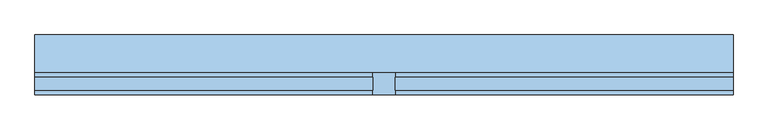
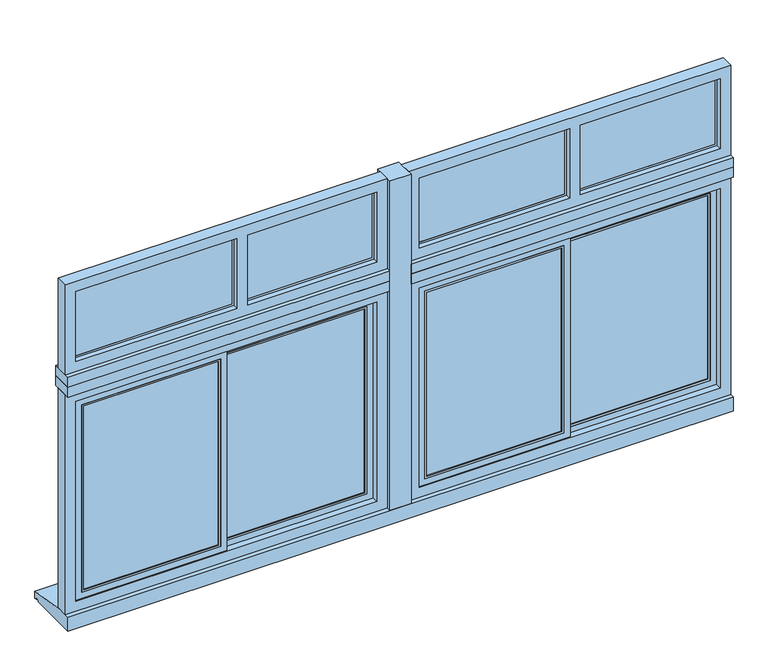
"""IFC4 building model written with IfcOpenShell, lengths in millimetres: window geometry, ARQ-VE-EX-315x155-Al-A1 : ARQ-VE-EX-315x165-Al-A1."""

from ifc_helpers import new_model, si_unit, point, frame, frame_2d, origin, place, context, project, spatial, polyline, circle_curve, trimmed, segment, composite_curve, outline, extrude, source, transform, mapped, element, save


def window_5a991f98(model_context):
    return source(origin(), model_context, "Body", "SweptSolid", [
        extrude(outline(polyline([(-110.0, -5.0), (-702.5, -5.0), (-702.5, 5.0), (-110.0, 5.0), (-110.0, -5.0)])), frame((0.0, 0.0, 2210.0), z_axis=(0.0, 0.0, 1.0), x_axis=(1.0, 0.0, 0.0)), (0.0, 0.0, 1.0), 330.0),
        extrude(outline(polyline([(1515.0, -5.0), (872.5, -5.0), (872.5, 5.0), (1515.0, 5.0), (1515.0, -5.0)])), frame((0.0, 0.0, 2210.0), z_axis=(0.0, 0.0, 1.0), x_axis=(1.0, 0.0, 0.0)), (0.0, 0.0, 1.0), 330.0),
        extrude(outline(polyline([(802.5, -5.0), (110.0, -5.0), (110.0, 5.0), (802.5, 5.0), (802.5, -5.0)])), frame((0.0, 0.0, 2210.0), z_axis=(0.0, 0.0, 1.0), x_axis=(1.0, 0.0, 0.0)), (0.0, 0.0, 1.0), 330.0),
        extrude(outline(polyline([(-772.5, -5.0), (-1515.0, -5.0), (-1515.0, 5.0), (-772.5, 5.0), (-772.5, -5.0)])), frame((0.0, 0.0, 2210.0), z_axis=(0.0, 0.0, 1.0), x_axis=(1.0, 0.0, 0.0)), (0.0, 0.0, 1.0), 330.0),
        extrude(outline(polyline([(2550.0, -762.5), (2550.0, -1525.0), (2200.0, -1525.0), (2200.0, -762.5), (2550.0, -762.5)]), holes=[polyline([(2540.0, -772.5), (2210.0, -772.5), (2210.0, -1515.0), (2540.0, -1515.0), (2540.0, -772.5)])]), frame((0.0, -5.0, 0.0), z_axis=(0.0, 1.0, 0.0), x_axis=(0.0, 0.0, 1.0)), (0.0, 0.0, 1.0), 10.0),
        extrude(outline(polyline([(2200.0, -100.0), (2550.0, -100.0), (2550.0, -712.5), (2200.0, -712.5), (2200.0, -100.0)]), holes=[polyline([(2540.0, -110.0), (2210.0, -110.0), (2210.0, -702.5), (2540.0, -702.5), (2540.0, -110.0)])]), frame((0.0, -5.0, 0.0), z_axis=(0.0, 1.0, 0.0), x_axis=(0.0, 0.0, 1.0)), (0.0, 0.0, 1.0), 10.0),
        extrude(outline(polyline([(2200.0, 812.5), (2550.0, 812.5), (2550.0, 100.0), (2200.0, 100.0), (2200.0, 812.5)]), holes=[polyline([(2540.0, 802.5), (2210.0, 802.5), (2210.0, 110.0), (2540.0, 110.0), (2540.0, 802.5)])]), frame((0.0, -5.0, 0.0), z_axis=(0.0, 1.0, 0.0), x_axis=(0.0, 0.0, 1.0)), (0.0, 0.0, 1.0), 10.0),
        extrude(outline(polyline([(2550.0, 1525.0), (2550.0, 862.5), (2200.0, 862.5), (2200.0, 1525.0), (2550.0, 1525.0)]), holes=[polyline([(2540.0, 1515.0), (2210.0, 1515.0), (2210.0, 872.5), (2540.0, 872.5), (2540.0, 1515.0)])]), frame((0.0, -5.0, 0.0), z_axis=(0.0, 1.0, 0.0), x_axis=(0.0, 0.0, 1.0)), (0.0, 0.0, 1.0), 10.0),
        extrude(outline(polyline([(2050.0, 1575.0), (2050.0, 50.0), (950.0, 50.0), (950.0, 1575.0), (2050.0, 1575.0)]), holes=[polyline([(1000.0, 1525.0), (1000.0, 100.0), (2000.0, 100.0), (2000.0, 1525.0), (1000.0, 1525.0)])]), frame((0.0, -30.0, 0.0), z_axis=(0.0, 1.0, 0.0), x_axis=(0.0, 0.0, 1.0)), (0.0, 0.0, 1.0), 60.0),
        extrude(outline(polyline([(2050.0, -50.0), (2050.0, -1575.0), (950.0, -1575.0), (950.0, -50.0), (2050.0, -50.0)]), holes=[polyline([(1000.0, -1525.0), (2000.0, -1525.0), (2000.0, -100.0), (1000.0, -100.0), (1000.0, -1525.0)])]), frame((0.0, -30.0, 0.0), z_axis=(0.0, 1.0, 0.0), x_axis=(0.0, 0.0, 1.0)), (0.0, 0.0, 1.0), 60.0),
        extrude(outline(polyline([(2150.0, 1575.0), (2600.0, 1575.0), (2600.0, 50.0), (2150.0, 50.0), (2150.0, 1575.0)]), holes=[polyline([(2200.0, 862.5), (2550.0, 862.5), (2550.0, 1525.0), (2200.0, 1525.0), (2200.0, 862.5)]), polyline([(2550.0, 812.5), (2200.0, 812.5), (2200.0, 100.0), (2550.0, 100.0), (2550.0, 812.5)])]), frame((0.0, -30.0, 0.0), z_axis=(0.0, 1.0, 0.0), x_axis=(0.0, 0.0, 1.0)), (0.0, 0.0, 1.0), 60.0),
        extrude(outline(polyline([(2600.0, -50.0), (2600.0, -1575.0), (2150.0, -1575.0), (2150.0, -50.0), (2600.0, -50.0)]), holes=[polyline([(2200.0, -712.5), (2550.0, -712.5), (2550.0, -100.0), (2200.0, -100.0), (2200.0, -712.5)]), polyline([(2550.0, -762.5), (2200.0, -762.5), (2200.0, -1525.0), (2550.0, -1525.0), (2550.0, -762.5)])]), frame((0.0, -30.0, 0.0), z_axis=(0.0, 1.0, 0.0), x_axis=(0.0, 0.0, 1.0)), (0.0, 0.0, 1.0), 60.0),
        extrude(outline(polyline([(50.0, -50.0), (-50.0, -50.0), (-50.0, 50.0), (50.0, 50.0), (50.0, -50.0)])), frame((0.0, 0.0, 950.0), z_axis=(0.0, 0.0, 1.0), x_axis=(1.0, 0.0, 0.0)), (0.0, 0.0, 1.0), 1650.0),
        extrude(outline(composite_curve([segment(polyline([(0.0, 950.0), (220.0, 916.0), (220.0, 880.0), (210.8067601, 880.0)]), True, "CONTINUOUS"), segment(trimmed(circle_curve(frame_2d((200.8067601, 880.0)), 10.0), [point((210.8067601, 880.0))], [point((190.8067601, 880.0))], True, "CARTESIAN"), True, "CONTINUOUS"), segment(polyline([(190.8067601, 880.0), (-50.0, 880.0), (-50.0, 950.0), (0.0, 950.0)]), True, "CONTINUOUS")], self_intersect=False)), frame((-1575.0, 0.0, 0.0), z_axis=(1.0, 0.0, 0.0), x_axis=(0.0, 1.0, 0.0)), (0.0, 0.0, 1.0), 3150.0),
        extrude(outline(polyline([(-140.0, 5.0), (-797.5, 5.0), (-797.5, 15.0), (-140.0, 15.0), (-140.0, 5.0)])), frame((0.0, 0.0, 1040.0), z_axis=(0.0, 0.0, 1.0), x_axis=(1.0, 0.0, 0.0)), (0.0, 0.0, 1.0), 920.0),
        extrude(outline(polyline([(1485.0, 5.0), (827.5, 5.0), (827.5, 15.0), (1485.0, 15.0), (1485.0, 5.0)])), frame((0.0, 0.0, 1040.0), z_axis=(0.0, 0.0, 1.0), x_axis=(1.0, 0.0, 0.0)), (0.0, 0.0, 1.0), 920.0),
        extrude(outline(polyline([(-847.5, -20.0), (-1485.0, -20.0), (-1485.0, -10.0), (-847.5, -10.0), (-847.5, -20.0)])), frame((0.0, 0.0, 1040.0), z_axis=(0.0, 0.0, 1.0), x_axis=(1.0, 0.0, 0.0)), (0.0, 0.0, 1.0), 920.0),
        extrude(outline(polyline([(777.5, -20.0), (140.0, -20.0), (140.0, -10.0), (777.5, -10.0), (777.5, -20.0)])), frame((0.0, 0.0, 1040.0), z_axis=(0.0, 0.0, 1.0), x_axis=(1.0, 0.0, 0.0)), (0.0, 0.0, 1.0), 920.0),
        extrude(outline(polyline([(1970.0, -130.0), (1970.0, -807.5), (1030.0, -807.5), (1030.0, -130.0), (1970.0, -130.0)]), holes=[polyline([(1960.0, -140.0), (1040.0, -140.0), (1040.0, -797.5), (1960.0, -797.5), (1960.0, -140.0)])]), frame((0.0, 0.0, 0.0), z_axis=(0.0, 1.0, 0.0), x_axis=(0.0, 0.0, 1.0)), (0.0, 0.0, 1.0), 20.0),
        extrude(outline(polyline([(1970.0, 1495.0), (1970.0, 817.5), (1030.0, 817.5), (1030.0, 1495.0), (1970.0, 1495.0)]), holes=[polyline([(1040.0, 1485.0), (1040.0, 827.5), (1960.0, 827.5), (1960.0, 1485.0), (1040.0, 1485.0)])]), frame((0.0, 0.0, 0.0), z_axis=(0.0, 1.0, 0.0), x_axis=(0.0, 0.0, 1.0)), (0.0, 0.0, 1.0), 20.0),
        extrude(outline(polyline([(1970.0, -837.5), (1970.0, -1495.0), (1030.0, -1495.0), (1030.0, -837.5), (1970.0, -837.5)]), holes=[polyline([(1960.0, -847.5), (1040.0, -847.5), (1040.0, -1485.0), (1960.0, -1485.0), (1960.0, -847.5)])]), frame((0.0, -25.0, 0.0), z_axis=(0.0, 1.0, 0.0), x_axis=(0.0, 0.0, 1.0)), (0.0, 0.0, 1.0), 20.0),
        extrude(outline(polyline([(1970.0, 130.0), (1030.0, 130.0), (1030.0, 787.5), (1970.0, 787.5), (1970.0, 130.0)]), holes=[polyline([(1040.0, 777.5), (1040.0, 140.0), (1960.0, 140.0), (1960.0, 777.5), (1040.0, 777.5)])]), frame((0.0, -25.0, 0.0), z_axis=(0.0, 1.0, 0.0), x_axis=(0.0, 0.0, 1.0)), (0.0, 0.0, 1.0), 20.0),
        extrude(outline(polyline([(2000.0, -100.0), (2000.0, -837.5), (1000.0, -837.5), (1000.0, -100.0), (2000.0, -100.0)]), holes=[polyline([(1030.0, -130.0), (1030.0, -807.5), (1970.0, -807.5), (1970.0, -130.0), (1030.0, -130.0)])]), frame((0.0, 0.0, 0.0), z_axis=(0.0, 1.0, 0.0), x_axis=(0.0, 0.0, 1.0)), (0.0, 0.0, 1.0), 25.0),
        extrude(outline(polyline([(1000.0, 1525.0), (2000.0, 1525.0), (2000.0, 787.5), (1000.0, 787.5), (1000.0, 1525.0)]), holes=[polyline([(1030.0, 1495.0), (1030.0, 817.5), (1970.0, 817.5), (1970.0, 1495.0), (1030.0, 1495.0)])]), frame((0.0, 0.0, 0.0), z_axis=(0.0, 1.0, 0.0), x_axis=(0.0, 0.0, 1.0)), (0.0, 0.0, 1.0), 25.0),
        extrude(outline(polyline([(2000.0, -807.5), (2000.0, -1525.0), (1000.0, -1525.0), (1000.0, -807.5), (2000.0, -807.5)]), holes=[polyline([(1030.0, -837.5), (1030.0, -1495.0), (1970.0, -1495.0), (1970.0, -837.5), (1030.0, -837.5)])]), frame((0.0, -25.0, 0.0), z_axis=(0.0, 1.0, 0.0), x_axis=(0.0, 0.0, 1.0)), (0.0, 0.0, 1.0), 25.0),
        extrude(outline(polyline([(1000.0, 817.5), (2000.0, 817.5), (2000.0, 100.0), (1000.0, 100.0), (1000.0, 817.5)]), holes=[polyline([(1030.0, 787.5), (1030.0, 130.0), (1970.0, 130.0), (1970.0, 787.5), (1030.0, 787.5)])]), frame((0.0, -25.0, 0.0), z_axis=(0.0, 1.0, 0.0), x_axis=(0.0, 0.0, 1.0)), (0.0, 0.0, 1.0), 25.0),
        extrude(outline(polyline([(-50.0, -50.0), (-1575.0, -50.0), (-1575.0, 50.0), (-50.0, 50.0), (-50.0, -50.0)])), frame((0.0, 0.0, 2050.0), z_axis=(0.0, 0.0, 1.0), x_axis=(1.0, 0.0, 0.0)), (0.0, 0.0, 1.0), 50.0),
        extrude(outline(polyline([(1575.0, -50.0), (50.0, -50.0), (50.0, 50.0), (1575.0, 50.0), (1575.0, -50.0)])), frame((0.0, 0.0, 2050.0), z_axis=(0.0, 0.0, 1.0), x_axis=(1.0, 0.0, 0.0)), (0.0, 0.0, 1.0), 50.0),
        extrude(outline(polyline([(-50.0, -50.0), (-1575.0, -50.0), (-1575.0, 50.0), (-50.0, 50.0), (-50.0, -50.0)])), frame((0.0, 0.0, 2100.0), z_axis=(0.0, 0.0, 1.0), x_axis=(1.0, 0.0, 0.0)), (0.0, 0.0, 1.0), 50.0),
        extrude(outline(polyline([(1575.0, -50.0), (50.0, -50.0), (50.0, 50.0), (1575.0, 50.0), (1575.0, -50.0)])), frame((0.0, 0.0, 2100.0), z_axis=(0.0, 0.0, 1.0), x_axis=(1.0, 0.0, 0.0)), (0.0, 0.0, 1.0), 50.0),
    ])


if __name__ == "__main__":
    model = new_model("IFC4")
    model_context = context("Model", 3, world=origin())
    ifc_project = project(units=[si_unit("LENGTHUNIT", "METRE", prefix="MILLI")], contexts=[model_context])
    site = spatial("IfcSite", under=ifc_project)
    building = spatial("IfcBuilding", under=site)
    placement = place(None, origin())
    window_shape = window_5a991f98(model_context)
    element("IfcWindow", 1, ObjectType="ARQ-VE-EX-315x155-Al-A1 : ARQ-VE-EX-315x165-Al-A1", at=placement, inside=building, context=model_context, shape_type="MappedRepresentation", body=[
        mapped(window_shape, transform((0.0, 0.0, 0.0), x_axis=(1.0, 0.0, 0.0), y_axis=(0.0, 1.0, 0.0), z_axis=(0.0, 0.0, 1.0))),
    ])
    save(model, "model.ifc")
